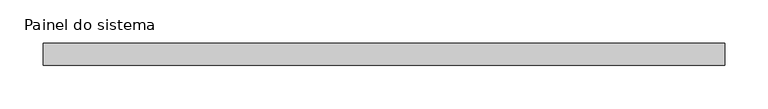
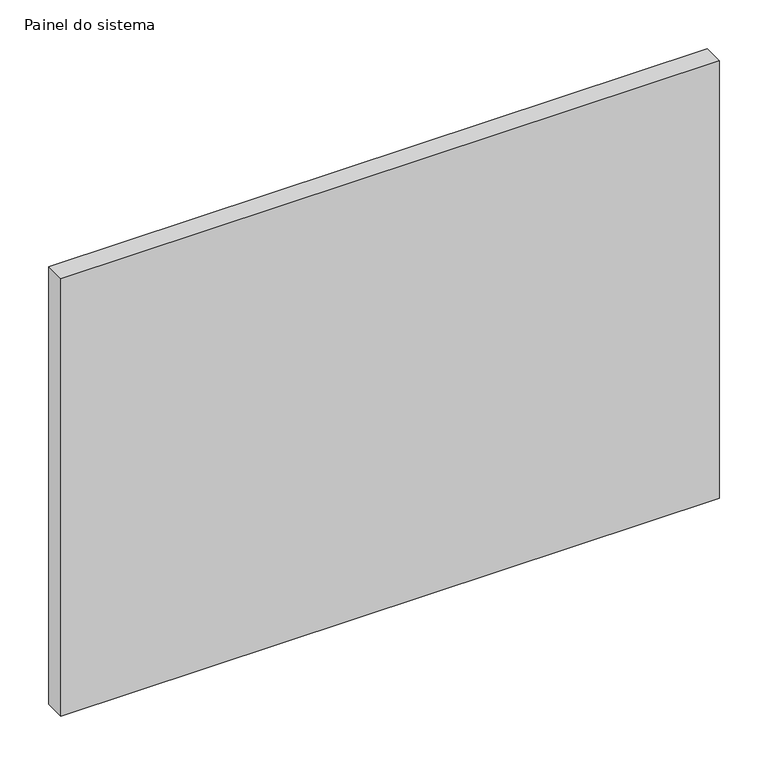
"""IFC4 building model written with IfcOpenShell, lengths in millimetres: plate geometry, Painel do sistema : Envidraçado."""

import ifcopenshell
import ifcopenshell.guid

model = None  # the IFC model being written
_history = None  # IfcOwnerHistory: only IFC2X3 demands one
_inside = {}  # id of a spatial element -> (the spatial element, [elements in it])
_under = {}  # id of a project, library or spatial element -> (it, [spatial elements below it])
_declared = {}  # id of a project -> (the project, [libraries it declares])
_typed = {}  # id of a type object -> (the type object, [elements of that type])
_made_of = {}  # id of a material, layer set ... -> (it, [elements and type objects made of it])


def new_model(schema):
    """Start an empty IFC model of exactly this schema.

    Asked for "IFC4X3", IfcOpenShell would pick the latest addendum, in which some entities
    have other attributes; the version numbers below select the first issue.
    IFC2X3 requires an IfcOwnerHistory on every rooted entity: one is made here for all.
    """
    global model, _history
    if schema == "IFC4X3":
        model = ifcopenshell.file(schema_version=(4, 3, 0, 0))
    else:
        model = ifcopenshell.file(schema=schema)
    _inside.clear()
    _under.clear()
    _declared.clear()
    _typed.clear()
    _made_of.clear()
    _history = None
    if model.schema == "IFC2X3":
        org = make("IfcOrganization", Name="unknown")
        user = make(
            "IfcPersonAndOrganization",
            ThePerson=make("IfcPerson", FamilyName="unknown"),
            TheOrganization=org,
        )
        app = make(
            "IfcApplication",
            ApplicationDeveloper=org,
            Version="unknown",
            ApplicationFullName="unknown",
            ApplicationIdentifier="unknown",
        )
        _history = make(
            "IfcOwnerHistory",
            OwningUser=user,
            OwningApplication=app,
            ChangeAction="ADDED",
            CreationDate=0,
        )
    return model


def make(cls, **values):
    """One entity of the class cls with the attributes given. An attribute that is None is left unset."""
    return model.create_entity(
        cls, **{name: value for name, value in values.items() if value is not None}
    )


def rooted(cls, **values):
    """An entity with a GlobalId (a new one), such as an element, a storey or a relation."""
    return make(cls, GlobalId=ifcopenshell.guid.new(), OwnerHistory=_history, **values)


def si_unit(unit_type, name, prefix=None):
    """IfcSIUnit, for example si_unit("LENGTHUNIT", "METRE", prefix="MILLI")."""
    return make("IfcSIUnit", UnitType=unit_type, Prefix=prefix, Name=name)


def assignment(units):
    """IfcUnitAssignment: the units of a project."""
    return None if units is None else make("IfcUnitAssignment", Units=units)


def point(xyz):
    """IfcCartesianPoint."""
    return None if xyz is None else make("IfcCartesianPoint", Coordinates=xyz)


def direction(xyz):
    """IfcDirection."""
    return None if xyz is None else make("IfcDirection", DirectionRatios=xyz)


def frame(location, z_axis=None, x_axis=None):
    """IfcAxis2Placement3D, a coordinate frame: its origin and axes. An axis left out is left unset."""
    return make(
        "IfcAxis2Placement3D",
        Location=point(location),
        Axis=direction(z_axis),
        RefDirection=direction(x_axis),
    )


def origin():
    """The frame at (0, 0, 0) with its axes left unset."""
    return frame((0.0, 0.0, 0.0))


def origin_with_axes():
    """The frame at (0, 0, 0) with the z axis (0, 0, 1) and the x axis (1, 0, 0) written out."""
    return frame((0.0, 0.0, 0.0), z_axis=(0.0, 0.0, 1.0), x_axis=(1.0, 0.0, 0.0))


def place(relative_to, where):
    """IfcLocalPlacement: puts the frame where relative to a parent placement (None: the world)."""
    return make(
        "IfcLocalPlacement", PlacementRelTo=relative_to, RelativePlacement=where
    )


def context(
    kind, dimensions, precision=None, world=None, true_north=None, identifier=None
):
    """IfcGeometricRepresentationContext, for example the 3D "Model" context."""
    return make(
        "IfcGeometricRepresentationContext",
        ContextIdentifier=identifier,
        ContextType=kind,
        CoordinateSpaceDimension=dimensions,
        Precision=precision,
        WorldCoordinateSystem=world,
        TrueNorth=true_north,
    )


def project(units=None, contexts=None):
    """IfcProject with its units and contexts."""
    return rooted(
        "IfcProject",
        Name="project",
        RepresentationContexts=contexts,
        UnitsInContext=assignment(units),
    )


def spatial(cls, under=None, at=None, **own):
    """A site, building, storey or space (cls), placed at a placement, below another one or the project."""
    s = rooted(cls, ObjectPlacement=at, **own)
    if under is not None:
        _under.setdefault(under.id(), (under, []))[1].append(s)
    return s


def polyline(points):
    """IfcPolyline through the points."""
    return make("IfcPolyline", Points=[point(p) for p in points])


def outline(outer, holes=None, kind="AREA"):
    """IfcArbitraryClosedProfileDef: a profile drawn as a closed curve; with holes, ...WithVoids."""
    if holes is None:
        return make("IfcArbitraryClosedProfileDef", ProfileType=kind, OuterCurve=outer)
    return make(
        "IfcArbitraryProfileDefWithVoids",
        ProfileType=kind,
        OuterCurve=outer,
        InnerCurves=holes,
    )


def extrude(swept, where, along, depth):
    """IfcExtrudedAreaSolid: the profile swept, set in the frame where, extruded along a direction by depth."""
    return make(
        "IfcExtrudedAreaSolid",
        SweptArea=swept,
        Position=where,
        ExtrudedDirection=direction(along),
        Depth=depth,
    )


def shape(context_of_items, identifier, shape_type, items):
    """IfcShapeRepresentation: the items that make up one representation, for example the "Body"."""
    return make(
        "IfcShapeRepresentation",
        ContextOfItems=context_of_items,
        RepresentationIdentifier=identifier,
        RepresentationType=shape_type,
        Items=items,
    )


def source(mapping_origin, context_of_items, identifier, shape_type, items):
    """IfcRepresentationMap: a shape defined once, which mapped items show again and again."""
    return make(
        "IfcRepresentationMap",
        MappingOrigin=mapping_origin,
        MappedRepresentation=shape(context_of_items, identifier, shape_type, items),
    )


def transform(
    local_origin,
    x_axis=None,
    y_axis=None,
    z_axis=None,
    scale=None,
    scale2=None,
    scale3=None,
    uniform=True,
):
    """IfcCartesianTransformationOperator3D, or its non-uniform kind. x_axis, y_axis, z_axis: its Axis1, 2, 3."""
    if uniform:
        return make(
            "IfcCartesianTransformationOperator3D",
            Axis1=direction(x_axis),
            Axis2=direction(y_axis),
            LocalOrigin=point(local_origin),
            Scale=scale,
            Axis3=direction(z_axis),
        )
    return make(
        "IfcCartesianTransformationOperator3DnonUniform",
        Axis1=direction(x_axis),
        Axis2=direction(y_axis),
        LocalOrigin=point(local_origin),
        Scale=scale,
        Axis3=direction(z_axis),
        Scale2=scale2,
        Scale3=scale3,
    )


def mapped(mapping_source, mapping_target):
    """IfcMappedItem: shows the shape of a source again, moved by a transform."""
    return make(
        "IfcMappedItem", MappingSource=mapping_source, MappingTarget=mapping_target
    )


def made_of(thing, what):
    """Note that an element or type object is made of a material, layer set ...; save() writes the relation."""
    if what is not None:
        _made_of.setdefault(what.id(), (what, []))[1].append(thing)
    return thing


def element(
    cls,
    number,
    at=None,
    inside=None,
    cuts=None,
    type_object=None,
    material=None,
    context=None,
    identifier="Body",
    shape_type=None,
    held_by="IfcProductDefinitionShape",
    body=None,
    shapes=None,
    **own,
):
    """One element of the class cls, such as IfcWall. Its Tag is "e" and its number.

    at: its placement. inside: the storey or other place that contains it. cuts: it is an
    opening in that element (IfcRelVoidsElement). A single representation is given by context,
    identifier, shape_type and body (its items); several are given by shapes. held_by: the class
    of the entity that holds the representations. save() writes the other relations.
    """
    e = rooted(cls, Tag="e%d" % number, ObjectPlacement=at, **own)
    if body is not None:
        shapes = [shape(context, identifier, shape_type, body)]
    if shapes is not None:
        e.Representation = make(held_by, Representations=shapes)
    if inside is not None:
        _inside.setdefault(inside.id(), (inside, []))[1].append(e)
    if cuts is not None:
        rooted(
            "IfcRelVoidsElement", RelatingBuildingElement=cuts, RelatedOpeningElement=e
        )
    if type_object is not None:
        _typed.setdefault(type_object.id(), (type_object, []))[1].append(e)
    return made_of(e, material)


def aggregate(whole, parts):
    """IfcRelAggregates: a whole, such as a stair, and the parts it consists of."""
    return rooted("IfcRelAggregates", RelatingObject=whole, RelatedObjects=parts)


def save(model, path):
    """Write the relations noted so far, then the file.

    IfcRelAggregates (storeys below a building ...), IfcRelContainedInSpatialStructure (elements
    in a storey), IfcRelDefinesByType, IfcRelAssociatesMaterial and IfcRelDeclares: one each for
    every whole, place, type object, material and project.
    """
    for whole, parts in _under.values():
        aggregate(whole, parts)
    for where, things in _inside.values():
        rooted(
            "IfcRelContainedInSpatialStructure",
            RelatedElements=things,
            RelatingStructure=where,
        )
    for kind, things in _typed.values():
        rooted("IfcRelDefinesByType", RelatedObjects=things, RelatingType=kind)
    for what, things in _made_of.values():
        rooted("IfcRelAssociatesMaterial", RelatedObjects=things, RelatingMaterial=what)
    for by, libraries in _declared.values():
        rooted("IfcRelDeclares", RelatingContext=by, RelatedDefinitions=libraries)
    model.write(path)


def painel_do_sistema_0a088aab(model_context):
    return source(origin(), model_context, "Body", "SweptSolid", [
        extrude(outline(polyline([(391.65, 24.5), (-391.65, 24.5), (-391.65, 49.5), (391.65, 49.5), (391.65, 24.5)])), origin_with_axes(), (0.0, 0.0, 1.0), 550.0),
    ])


if __name__ == "__main__":
    model = new_model("IFC4")
    model_context = context("Model", 3, world=origin())
    ifc_project = project(units=[si_unit("LENGTHUNIT", "METRE", prefix="MILLI")], contexts=[model_context])
    site = spatial("IfcSite", under=ifc_project)
    building = spatial("IfcBuilding", under=site)
    placement = place(None, origin())
    painel_do_sistema_shape = painel_do_sistema_0a088aab(model_context)
    element("IfcPlate", 1, ObjectType="Painel do sistema : Envidraçado", at=placement, inside=building, context=model_context, shape_type="MappedRepresentation", body=[
        mapped(painel_do_sistema_shape, transform((0.0, 0.0, 0.0), x_axis=(1.0, 0.0, 0.0), y_axis=(0.0, 1.0, 0.0), z_axis=(0.0, 0.0, 1.0))),
    ])
    save(model, "model.ifc")
